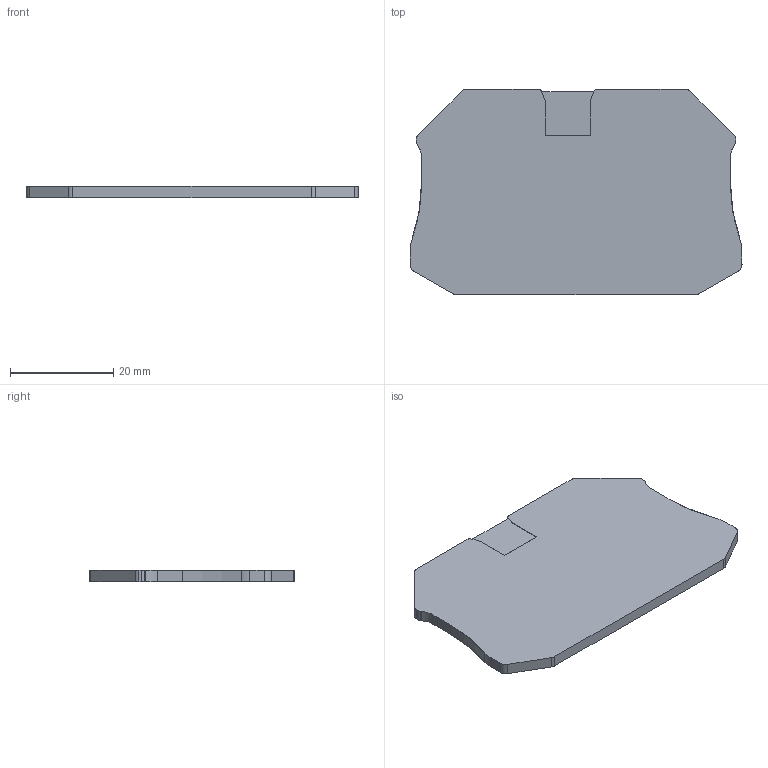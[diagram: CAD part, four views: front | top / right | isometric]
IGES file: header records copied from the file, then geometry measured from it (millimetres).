
Global section: file name: 3047170_d_ut25_4_quattro_select.igs; native system: OneSpace Designer 3D IGES; preprocessor: 12.01C  26-Mar-2004; date: 20050302.080912; units: millimetre
Bounding box: 64.4 x 39.8 x 2.2 mm (x, y, z)
Surface area: 5099.5 mm2 (no closed solid volume)
Topology: 0 solids, 0 shells, 46 faces, 324 edges, 324 vertices
Faces by surface type: bspline 46
